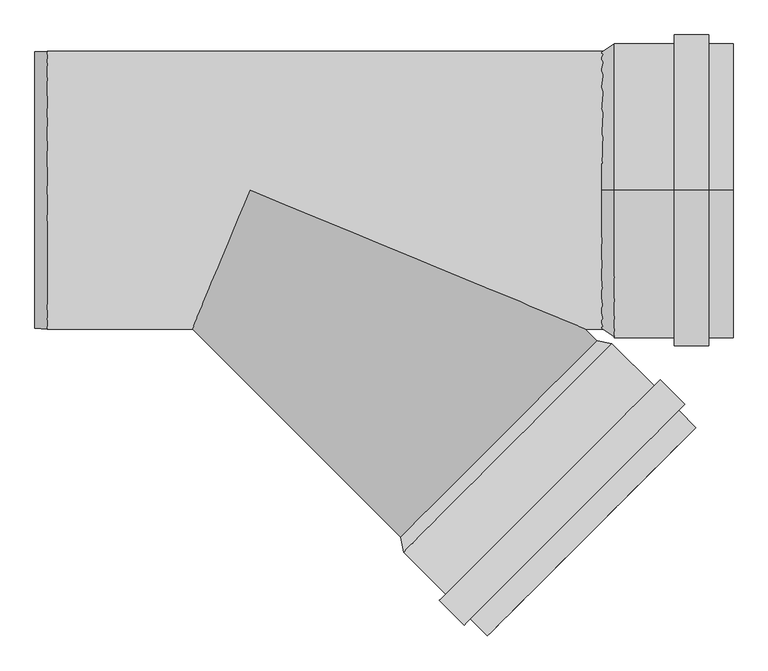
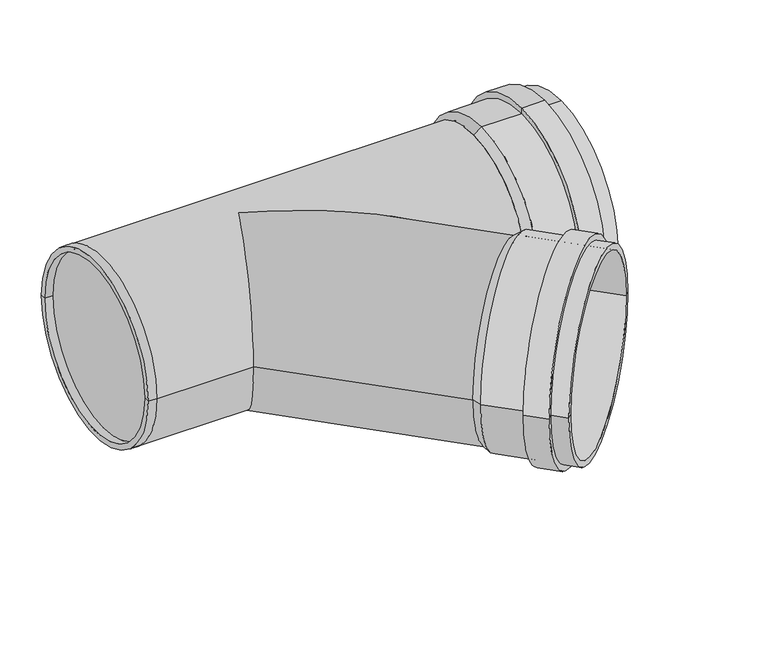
"""IFC4 building model written with IfcOpenShell, lengths in millimetres: pipe fitting geometry, OSMA_KG2000_PPKGEA : Odbočka 45°."""

from ifc_helpers import new_model, si_unit, frame, origin, place, context, project, spatial, polyline, circle_curve, ellipse_curve, source, transform, mapped, element, save
from ifc_brep_helpers import plane_surface, cylinder_surface, revolved_surface, advanced_brep


def pipe_fitting_a88c6c78(model_context):
    return source(origin(), model_context, "Body", "AdvancedBrep", [
        advanced_brep(
        [(512.6524164, -229.8097039, 1.6299565), (229.8097039, -512.6524164, 1.6299565), (350.7249635, -633.5676759, 1.6299565), (633.5676759, -350.7249635, 1.6299565), (582.161013, -281.9234737, 1.6299565), (281.9234737, -582.161013, 1.6299565), (221.1122905, -521.3498298, 1.6299565), (521.3498298, -221.1122905, 1.6299565), (591.1412691, -272.9432175, 1.6299565), (272.9432175, -591.1412691, 1.6299565), (626.4966081, -308.2985566, 1.6299565), (308.2985566, -626.4966081, 1.6299565), (617.516352, -317.2788127, 1.6299565), (317.2788127, -617.516352, 1.6299565), (642.2650894, -342.0275501, 1.6299565), (342.0275501, -642.2650894, 1.6299565), (491.2270809, -225.7791952, 1.6299565), (225.7791952, -491.2270809, 1.6299565), (499.9244943, -217.0817818, 1.6299565), (217.0817818, -499.9244943, 1.6299565)],
        [
            (0, 1, circle_curve(frame((371.2310601, -371.2310601, 1.6299565), z_axis=(-0.707106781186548, 0.707106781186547, 0.0), x_axis=(-0.707106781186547, -0.707106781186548, 0.0)), 200.0)),
            (1, 2),
            (2, 3, circle_curve(frame((492.1463197, -492.1463197, 1.6299565), z_axis=(0.707106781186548, -0.707106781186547, 0.0), x_axis=(-0.707106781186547, -0.707106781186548, 0.0)), 200.0)),
            (3, 0),
            (1, 0, circle_curve(frame((371.2310601, -371.2310601, 1.6299565), z_axis=(-0.707106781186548, 0.707106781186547, 0.0), x_axis=(-0.707106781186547, -0.707106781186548, 0.0)), 200.0)),
            (3, 2, circle_curve(frame((492.1463197, -492.1463197, 1.6299565), z_axis=(0.707106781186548, -0.707106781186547, 0.0), x_axis=(-0.707106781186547, -0.707106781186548, 0.0)), 200.0)),
            (4, 5, circle_curve(frame((432.0422433, -432.0422433, 1.6299565), z_axis=(-0.707106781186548, 0.707106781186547, 0.0), x_axis=(-0.707106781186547, -0.707106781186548, 0.0)), 212.3)),
            (5, 6),
            (6, 7, circle_curve(frame((371.2310601, -371.2310601, 1.6299565), z_axis=(0.707106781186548, -0.707106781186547, 0.0), x_axis=(-0.707106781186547, -0.707106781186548, 0.0)), 212.3)),
            (7, 4),
            (5, 4, circle_curve(frame((432.0422433, -432.0422433, 1.6299565), z_axis=(-0.707106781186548, 0.707106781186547, 0.0), x_axis=(-0.707106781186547, -0.707106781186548, 0.0)), 212.3)),
            (7, 6, circle_curve(frame((371.2310601, -371.2310601, 1.6299565), z_axis=(0.707106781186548, -0.707106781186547, 0.0), x_axis=(-0.707106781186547, -0.707106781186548, 0.0)), 212.3)),
            (8, 9, circle_curve(frame((432.0422433, -432.0422433, 1.6299565), z_axis=(-0.707106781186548, 0.707106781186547, 0.0), x_axis=(-0.707106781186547, -0.707106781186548, 0.0)), 225.0)),
            (9, 5),
            (4, 8),
            (9, 8, circle_curve(frame((432.0422433, -432.0422433, 1.6299565), z_axis=(-0.707106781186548, 0.707106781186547, 0.0), x_axis=(-0.707106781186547, -0.707106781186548, 0.0)), 225.0)),
            (10, 11, circle_curve(frame((467.3975824, -467.3975824, 1.6299565), z_axis=(-0.707106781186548, 0.707106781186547, 0.0), x_axis=(-0.707106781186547, -0.707106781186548, 0.0)), 225.0)),
            (11, 9),
            (8, 10),
            (11, 10, circle_curve(frame((467.3975824, -467.3975824, 1.6299565), z_axis=(-0.707106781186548, 0.707106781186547, 0.0), x_axis=(-0.707106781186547, -0.707106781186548, 0.0)), 225.0)),
            (12, 13, circle_curve(frame((467.3975824, -467.3975824, 1.6299565), z_axis=(-0.707106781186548, 0.707106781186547, 0.0), x_axis=(-0.707106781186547, -0.707106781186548, 0.0)), 212.3)),
            (13, 11),
            (10, 12),
            (13, 12, circle_curve(frame((467.3975824, -467.3975824, 1.6299565), z_axis=(-0.707106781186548, 0.707106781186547, 0.0), x_axis=(-0.707106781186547, -0.707106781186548, 0.0)), 212.3)),
            (14, 15, circle_curve(frame((492.1463197, -492.1463197, 1.6299565), z_axis=(-0.707106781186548, 0.707106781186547, 0.0), x_axis=(-0.707106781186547, -0.707106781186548, 0.0)), 212.3)),
            (15, 13),
            (12, 14),
            (15, 14, circle_curve(frame((492.1463197, -492.1463197, 1.6299565), z_axis=(-0.707106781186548, 0.707106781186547, 0.0), x_axis=(-0.707106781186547, -0.707106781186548, 0.0)), 212.3)),
            (2, 15),
            (14, 3),
            (16, 17, circle_curve(frame((358.5031381, -358.5031381, 1.6299565), z_axis=(-0.707106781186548, 0.707106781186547, 0.0), x_axis=(-0.707106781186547, -0.707106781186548, 0.0)), 187.7)),
            (17, 1),
            (0, 16),
            (17, 16, circle_curve(frame((358.5031381, -358.5031381, 1.6299565), z_axis=(-0.707106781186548, 0.707106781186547, 0.0), x_axis=(-0.707106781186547, -0.707106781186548, 0.0)), 187.7)),
            (18, 19, circle_curve(frame((358.5031381, -358.5031381, 1.6299565), z_axis=(-0.707106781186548, 0.707106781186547, 0.0), x_axis=(-0.707106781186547, -0.707106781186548, 0.0)), 200.0)),
            (19, 17),
            (16, 18),
            (19, 18, circle_curve(frame((358.5031381, -358.5031381, 1.6299565), z_axis=(-0.707106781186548, 0.707106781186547, 0.0), x_axis=(-0.707106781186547, -0.707106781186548, 0.0)), 200.0)),
            (6, 19),
            (18, 7),
        ],
        [
            revolved_surface(polyline([(350.7249634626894, -633.5676759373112, 1.6299565), (229.8097038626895, -512.6524163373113, 1.6299565)]), (2379.7496427, -2379.7496427, 1.6299565), (0.707106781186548, -0.707106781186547, 0.0)),
            cylinder_surface(frame((2379.7496427, -2379.7496427, 1.6299565), z_axis=(0.707106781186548, -0.707106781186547, 0.0), x_axis=(-0.707106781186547, -0.707106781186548, 0.0)), 212.3),
            plane_surface(frame((432.0422433, -432.0422433, 1.6299565), z_axis=(-0.707106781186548, 0.707106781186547, 0.0), x_axis=(-0.707106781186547, -0.707106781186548, 0.0))),
            cylinder_surface(frame((2379.7496427, -2379.7496427, 1.6299565), z_axis=(0.707106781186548, -0.707106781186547, 0.0), x_axis=(-0.707106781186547, -0.707106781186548, 0.0)), 225.0),
            plane_surface(frame((467.3975824, -467.3975824, 1.6299565), z_axis=(0.707106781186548, -0.707106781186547, 0.0), x_axis=(-0.707106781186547, -0.707106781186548, 0.0))),
            plane_surface(frame((492.1463197, -492.1463197, 1.6299565), z_axis=(0.707106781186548, -0.707106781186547, 0.0), x_axis=(-0.707106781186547, -0.707106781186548, 0.0))),
            revolved_surface(polyline([(229.8097039, -512.6524164, 1.6299565), (225.7791952, -491.2270809, 1.6299565)]), (2379.7496427, -2379.7496427, 1.6299565), (0.707106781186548, -0.707106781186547, 0.0)),
            plane_surface(frame((358.5031381, -358.5031381, 1.6299565), z_axis=(-0.707106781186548, 0.707106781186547, 0.0), x_axis=(-0.707106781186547, -0.707106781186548, 0.0))),
            revolved_surface(polyline([(217.0817818, -499.9244943, 1.6299565), (221.1122905, -521.3498298, 1.6299565)]), (2379.7496427, -2379.7496427, 1.6299565), (0.707106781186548, -0.707106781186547, 0.0)),
        ],
        [
            (0, [[1, 2, 3, 4]]),
            (0, [[5, -4, 6, -2]]),
            (1, [[7, 8, 9, 10]]),
            (1, [[11, -10, 12, -8]]),
            (2, [[13, 14, -7, 15]]),
            (2, [[16, -15, -11, -14]]),
            (3, [[17, 18, -13, 19]]),
            (3, [[20, -19, -16, -18]]),
            (4, [[21, 22, -17, 23]]),
            (4, [[24, -23, -20, -22]]),
            (1, [[25, 26, -21, 27]]),
            (1, [[28, -27, -24, -26]]),
            (5, [[-3, 29, -25, 30]]),
            (5, [[-6, -30, -28, -29]]),
            (6, [[31, 32, -1, 33]]),
            (6, [[34, -33, -5, -32]]),
            (7, [[35, 36, -31, 37]]),
            (7, [[38, -37, -34, -36]]),
            (8, [[-9, 39, -35, 40]]),
            (8, [[-12, -40, -38, -39]]),
        ],
    ),
        advanced_brep(
        [(525.0, 0.0, -200.0), (525.0, 0.0, 200.0), (696.0, 0.0, 200.0), (696.0, 0.0, -200.0), (611.0, 0.0, -212.3), (611.0, 0.0, 212.3), (525.0, 0.0, 212.3), (525.0, 0.0, -212.3), (611.0, 0.0, -225.0), (611.0, 0.0, 225.0), (661.0, 0.0, -225.0), (661.0, 0.0, 225.0), (661.0, 0.0, -212.3), (661.0, 0.0, 212.3), (696.0, 0.0, -212.3), (696.0, 0.0, 212.3), (507.0, 0.0, -187.7), (507.0, 0.0, 187.7), (507.0, 0.0, -200.0), (507.0, 0.0, 200.0)],
        [
            (0, 1, circle_curve(frame((525.0, 0.0, 0.0), z_axis=(-1.0, 0.0, 0.0), x_axis=(0.0, 0.0, 1.0)), 200.0)),
            (1, 2),
            (2, 3, circle_curve(frame((696.0, 0.0, 0.0), z_axis=(1.0, 0.0, 0.0), x_axis=(0.0, 0.0, 1.0)), 200.0)),
            (3, 0),
            (1, 0, circle_curve(frame((525.0, 0.0, 0.0), z_axis=(-1.0, 0.0, 0.0), x_axis=(0.0, 0.0, 1.0)), 200.0)),
            (3, 2, circle_curve(frame((696.0, 0.0, 0.0), z_axis=(1.0, 0.0, 0.0), x_axis=(0.0, 0.0, 1.0)), 200.0)),
            (4, 5, circle_curve(frame((611.0, 0.0, 0.0), z_axis=(-1.0, 0.0, 0.0), x_axis=(0.0, 0.0, 1.0)), 212.3)),
            (5, 6),
            (6, 7, circle_curve(frame((525.0, 0.0, 0.0), z_axis=(1.0, 0.0, 0.0), x_axis=(0.0, 0.0, 1.0)), 212.3)),
            (7, 4),
            (5, 4, circle_curve(frame((611.0, 0.0, 0.0), z_axis=(-1.0, 0.0, 0.0), x_axis=(0.0, 0.0, 1.0)), 212.3)),
            (7, 6, circle_curve(frame((525.0, 0.0, 0.0), z_axis=(1.0, 0.0, 0.0), x_axis=(0.0, 0.0, 1.0)), 212.3)),
            (8, 9, circle_curve(frame((611.0, 0.0, 0.0), z_axis=(-1.0, 0.0, 0.0), x_axis=(0.0, 0.0, 1.0)), 225.0)),
            (9, 5),
            (4, 8),
            (9, 8, circle_curve(frame((611.0, 0.0, 0.0), z_axis=(-1.0, 0.0, 0.0), x_axis=(0.0, 0.0, 1.0)), 225.0)),
            (10, 11, circle_curve(frame((661.0, 0.0, 0.0), z_axis=(-1.0, 0.0, 0.0), x_axis=(0.0, 0.0, 1.0)), 225.0)),
            (11, 9),
            (8, 10),
            (11, 10, circle_curve(frame((661.0, 0.0, 0.0), z_axis=(-1.0, 0.0, 0.0), x_axis=(0.0, 0.0, 1.0)), 225.0)),
            (12, 13, circle_curve(frame((661.0, 0.0, 0.0), z_axis=(-1.0, 0.0, 0.0), x_axis=(0.0, 0.0, 1.0)), 212.3)),
            (13, 11),
            (10, 12),
            (13, 12, circle_curve(frame((661.0, 0.0, 0.0), z_axis=(-1.0, 0.0, 0.0), x_axis=(0.0, 0.0, 1.0)), 212.3)),
            (14, 15, circle_curve(frame((696.0, 0.0, 0.0), z_axis=(-1.0, 0.0, 0.0), x_axis=(0.0, 0.0, 1.0)), 212.3)),
            (15, 13),
            (12, 14),
            (15, 14, circle_curve(frame((696.0, 0.0, 0.0), z_axis=(-1.0, 0.0, 0.0), x_axis=(0.0, 0.0, 1.0)), 212.3)),
            (2, 15),
            (14, 3),
            (16, 17, circle_curve(frame((507.0, 0.0, 0.0), z_axis=(-1.0, 0.0, 0.0), x_axis=(0.0, 0.0, 1.0)), 187.7)),
            (17, 1),
            (0, 16),
            (17, 16, circle_curve(frame((507.0, 0.0, 0.0), z_axis=(-1.0, 0.0, 0.0), x_axis=(0.0, 0.0, 1.0)), 187.7)),
            (18, 19, circle_curve(frame((507.0, 0.0, 0.0), z_axis=(-1.0, 0.0, 0.0), x_axis=(0.0, 0.0, 1.0)), 200.0)),
            (19, 17),
            (16, 18),
            (19, 18, circle_curve(frame((507.0, 0.0, 0.0), z_axis=(-1.0, 0.0, 0.0), x_axis=(0.0, 0.0, 1.0)), 200.0)),
            (6, 19),
            (18, 7),
        ],
        [
            revolved_surface(polyline([(696.0, 0.0, 200.0), (525.0, 0.0, 200.0)]), (3365.4742198, 0.0, 0.0), (1.0, 0.0, 0.0)),
            cylinder_surface(frame((3365.4742198, 0.0, 0.0), z_axis=(1.0, 0.0, 0.0), x_axis=(0.0, 0.0, 1.0)), 212.3),
            plane_surface(frame((611.0, 0.0, 0.0), z_axis=(-1.0, 0.0, 0.0), x_axis=(0.0, 0.0, 1.0))),
            cylinder_surface(frame((3365.4742198, 0.0, 0.0), z_axis=(1.0, 0.0, 0.0), x_axis=(0.0, 0.0, 1.0)), 225.0),
            plane_surface(frame((661.0, 0.0, 0.0), z_axis=(1.0, 0.0, 0.0), x_axis=(0.0, 0.0, 1.0))),
            plane_surface(frame((696.0, 0.0, 0.0), z_axis=(1.0, 0.0, 0.0), x_axis=(0.0, 0.0, 1.0))),
            revolved_surface(polyline([(525.0, 0.0, 200.0), (507.0, 0.0, 187.7)]), (3365.4742198, 0.0, 0.0), (1.0, 0.0, 0.0)),
            plane_surface(frame((507.0, 0.0, 0.0), z_axis=(-1.0, 0.0, 0.0), x_axis=(0.0, 0.0, 1.0))),
            revolved_surface(polyline([(507.0, 0.0, 200.0), (525.0, 0.0, 212.3)]), (3365.4742198, 0.0, 0.0), (1.0, 0.0, 0.0)),
        ],
        [
            (0, [[1, 2, 3, 4]]),
            (0, [[5, -4, 6, -2]]),
            (1, [[7, 8, 9, 10]]),
            (1, [[11, -10, 12, -8]]),
            (2, [[13, 14, -7, 15]]),
            (2, [[16, -15, -11, -14]]),
            (3, [[17, 18, -13, 19]]),
            (3, [[20, -19, -16, -18]]),
            (4, [[21, 22, -17, 23]]),
            (4, [[24, -23, -20, -22]]),
            (1, [[25, 26, -21, 27]]),
            (1, [[28, -27, -24, -26]]),
            (5, [[-3, 29, -25, 30]]),
            (5, [[-6, -30, -28, -29]]),
            (6, [[31, 32, -1, 33]]),
            (6, [[34, -33, -5, -32]]),
            (7, [[35, 36, -31, 37]]),
            (7, [[38, -37, -34, -36]]),
            (8, [[-9, 39, -35, 40]]),
            (8, [[-12, -40, -38, -39]]),
        ],
    ),
        advanced_brep(
        [(223.4457429, -506.2884553, 0.0), (506.2884553, -223.4457429, 0.0), (482.8427125, -200.0, 0.0), (0.0, 0.0, 200.0), (-82.8427125, -200.0, 0.0), (0.0, 0.0, -200.0), (-310.0, -187.7, 0.0), (-310.0, 187.7, 0.0), (-310.0, 199.209508, 0.0), (-310.0, -199.209508, 0.0), (-292.0, -187.7, 0.0), (-292.0, 187.7, 0.0), (-292.0, 200.0, 0.0), (-292.0, -200.0, 0.0), (516.0, 200.0, 0.0), (516.0, -200.0, 0.0)],
        [
            (0, 1, circle_curve(frame((364.8670991, -364.8670991, 0.0), z_axis=(0.7071067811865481, -0.7071067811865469, 0.0), x_axis=(0.7071067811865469, 0.7071067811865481, 0.0)), 200.0)),
            (1, 0, circle_curve(frame((364.8670991, -364.8670991, 0.0), z_axis=(0.7071067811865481, -0.7071067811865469, 0.0), x_axis=(0.7071067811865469, 0.7071067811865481, 0.0)), 200.0)),
            (1, 2),
            (2, 3, ellipse_curve(frame((0.0, 0.0, 0.0), z_axis=(-0.3826834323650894, -0.923879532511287, 0.0), x_axis=(-0.923879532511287, 0.38268343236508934, 0.0)), 522.625186, 200.0)),
            (3, 4, ellipse_curve(frame((0.0, 0.0, 0.0), z_axis=(0.923879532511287, -0.3826834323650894, 0.0), x_axis=(0.38268343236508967, 0.9238795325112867, 0.0)), 216.4784401, 200.0)),
            (4, 0),
            (4, 5, ellipse_curve(frame((0.0, 0.0, 0.0), z_axis=(0.923879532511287, -0.3826834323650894, 0.0), x_axis=(0.38268343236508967, 0.9238795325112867, 0.0)), 216.4784401, 200.0)),
            (5, 2, ellipse_curve(frame((0.0, 0.0, 0.0), z_axis=(-0.3826834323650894, -0.923879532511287, 0.0), x_axis=(-0.923879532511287, 0.38268343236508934, 0.0)), 522.625186, 200.0)),
            (6, 7, circle_curve(frame((-310.0, 0.0, 0.0), z_axis=(1.0, 0.0, 0.0), x_axis=(0.0, 1.0, 0.0)), 187.7)),
            (7, 8),
            (8, 9, circle_curve(frame((-310.0, 0.0, 0.0), z_axis=(-1.0, 0.0, 0.0), x_axis=(0.0, 1.0, 0.0)), 199.209508)),
            (9, 6),
            (7, 6, circle_curve(frame((-310.0, 0.0, 0.0), z_axis=(1.0, 0.0, 0.0), x_axis=(0.0, 1.0, 0.0)), 187.7)),
            (9, 8, circle_curve(frame((-310.0, 0.0, 0.0), z_axis=(-1.0, 0.0, 0.0), x_axis=(0.0, 1.0, 0.0)), 199.209508)),
            (6, 10),
            (10, 11, circle_curve(frame((-292.0, 0.0, 0.0), z_axis=(1.0, 0.0, 0.0), x_axis=(0.0, 1.0, 0.0)), 187.7)),
            (11, 7),
            (11, 10, circle_curve(frame((-292.0, 0.0, 0.0), z_axis=(1.0, 0.0, 0.0), x_axis=(0.0, 1.0, 0.0)), 187.7)),
            (8, 12),
            (12, 13, circle_curve(frame((-292.0, 0.0, 0.0), z_axis=(-1.0, 0.0, 0.0), x_axis=(0.0, 1.0, 0.0)), 200.0)),
            (13, 9),
            (13, 12, circle_curve(frame((-292.0, 0.0, 0.0), z_axis=(-1.0, 0.0, 0.0), x_axis=(0.0, 1.0, 0.0)), 200.0)),
            (14, 15, circle_curve(frame((516.0, 0.0, 0.0), z_axis=(1.0, 0.0, 0.0), x_axis=(0.0, -1.0, 0.0)), 200.0)),
            (15, 14, circle_curve(frame((516.0, 0.0, 0.0), z_axis=(1.0, 0.0, 0.0), x_axis=(0.0, -1.0, 0.0)), 200.0)),
            (14, 12),
            (13, 4),
            (2, 15),
        ],
        [
            plane_surface(frame((364.8670991, -364.8670991, 0.0), z_axis=(0.7071067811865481, -0.7071067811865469, 0.0), x_axis=(0.0, 0.0, 1.0))),
            cylinder_surface(frame((0.0, 0.0, 0.0), z_axis=(-0.7071067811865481, 0.7071067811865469, 0.0), x_axis=(0.7071067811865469, 0.7071067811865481, 0.0)), 200.0),
            plane_surface(frame((-310.0, 0.0, 0.0), z_axis=(-1.0, 0.0, 0.0), x_axis=(0.0, 1.0, 0.0))),
            revolved_surface(polyline([(-310.0, 187.7, 0.0), (-292.0, 187.7, 0.0)]), (2425.0, 0.0, 0.0), (-1.0, 0.0, 0.0)),
            revolved_surface(polyline([(-292.0, 200.0, 0.0), (-310.0, 199.209508, 0.0)]), (2425.0, 0.0, 0.0), (-1.0, 0.0, 0.0)),
            plane_surface(frame((516.0, 0.0, 0.0), z_axis=(1.0, 0.0, 0.0), x_axis=(0.0, 0.0, 1.0))),
            plane_surface(frame((-292.0, 0.0, 0.0), z_axis=(-1.0, 0.0, 0.0), x_axis=(0.0, 0.0, 1.0))),
            cylinder_surface(frame((516.0, 0.0, 0.0), z_axis=(1.0, 0.0, 0.0), x_axis=(0.0, -1.0, 0.0)), 200.0),
        ],
        [
            (0, [[1, 2]]),
            (1, [[-2, 3, 4, 5, 6]]),
            (1, [[-1, -6, 7, 8, -3]]),
            (2, [[9, 10, 11, 12]]),
            (2, [[-10, 13, -12, 14]]),
            (3, [[-9, 15, 16, 17]]),
            (3, [[-13, -17, 18, -15]]),
            (4, [[-11, 19, 20, 21]]),
            (4, [[-14, -21, 22, -19]]),
            (5, [[23, 24]]),
            (6, [[-16, -18]]),
            (7, [[-23, 25, -22, 26, -5, -4, 27]]),
            (7, [[-24, -27, -8, -7, -26, -20, -25]]),
        ],
    ),
    ])


if __name__ == "__main__":
    model = new_model("IFC4")
    model_context = context("Model", 3, world=origin())
    ifc_project = project(units=[si_unit("LENGTHUNIT", "METRE", prefix="MILLI")], contexts=[model_context])
    site = spatial("IfcSite", under=ifc_project)
    building = spatial("IfcBuilding", under=site)
    placement = place(None, origin())
    pipe_fitting_shape = pipe_fitting_a88c6c78(model_context)
    element("IfcPipeFitting", 1, ObjectType="OSMA_KG2000_PPKGEA : Odbočka 45°", at=placement, inside=building, context=model_context, shape_type="MappedRepresentation", body=[
        mapped(pipe_fitting_shape, transform((0.0, 0.0, 0.0), x_axis=(1.0, 0.0, 0.0), y_axis=(0.0, 1.0, 0.0), z_axis=(0.0, 0.0, 1.0))),
    ])
    save(model, "model.ifc")
